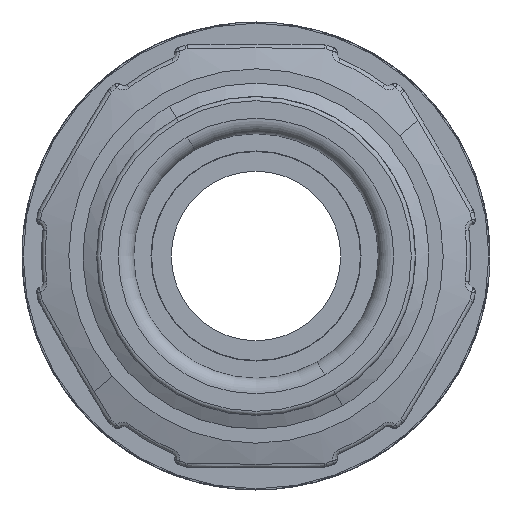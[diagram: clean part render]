
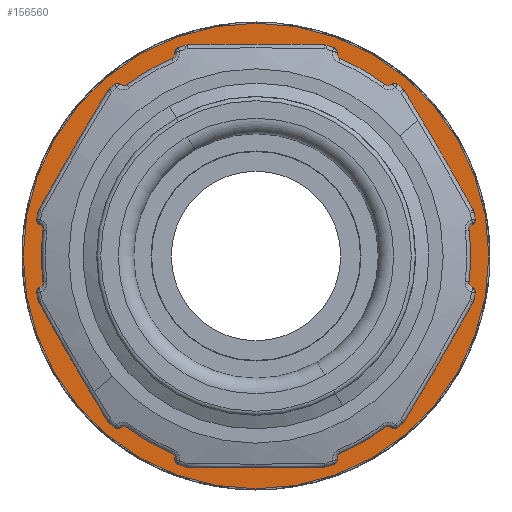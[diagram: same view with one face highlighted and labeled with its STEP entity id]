
A CAD part, left-side view. The second image highlights one B-rep face of the part: STEP entity #156560.
In plain terms, the highlighted planar face has unit normal (-1, 0, 0) as drawn and (0, 0, -1) by its records, which use the part's own axes.
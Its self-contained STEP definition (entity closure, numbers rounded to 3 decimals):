
#156210=CARTESIAN_POINT('',(20.902,67.449,-1.25));
#156220=DIRECTION('',(0.,0.,-1.));
#156230=DIRECTION('',(-0.866,0.5,0.));
#156240=AXIS2_PLACEMENT_3D('',#156210,#156220,#156230);
#156250=PLANE('',#156240);
#156260=CARTESIAN_POINT('',(39.,57.,-1.25));
#156270=DIRECTION('',(0.,0.,1.));
#156280=DIRECTION('',(-0.866,0.5,
0.));
#156290=AXIS2_PLACEMENT_3D('',#156260,#156270,#156280);
#156300=CIRCLE('',#156290,19.295);
#156310=CARTESIAN_POINT('',(22.29,66.647,-1.25));
#156320=VERTEX_POINT('',#156310);
#156330=CARTESIAN_POINT('',(55.71,47.353,-1.25));
#156340=VERTEX_POINT('',#156330);
#156350=EDGE_CURVE('',#156320,#156340,#156300,.T.);
#156360=ORIENTED_EDGE('',*,*,#156350,.T.);
#156370=EDGE_CURVE('',#156340,#156320,#156300,.T.);
#156380=ORIENTED_EDGE('',*,*,#156370,.T.);
#156390=EDGE_LOOP('',(#156380,#156360));
#156400=FACE_BOUND('',#156390,.T.);
#156410=CARTESIAN_POINT('',(39.,57.,-1.25));
#156420=DIRECTION('',(0.,0.,-1.));
#156430=DIRECTION('',(-0.866,0.5,0.));
#156440=AXIS2_PLACEMENT_3D('',#156410,#156420,#156430);
#156450=CIRCLE('',#156440,22.39);
#156460=CARTESIAN_POINT('',(19.61,68.195,-1.25));
#156470=VERTEX_POINT('',#156460);
#156480=CARTESIAN_POINT('',(58.39,45.805,-1.25));
#156490=VERTEX_POINT('',#156480);
#156500=EDGE_CURVE('',#156470,#156490,#156450,.T.);
#156510=ORIENTED_EDGE('',*,*,#156500,.T.);
#156520=EDGE_CURVE('',#156490,#156470,#156450,.T.);
#156530=ORIENTED_EDGE('',*,*,#156520,.T.);
#156540=EDGE_LOOP('',(#156530,#156510));
#156550=FACE_OUTER_BOUND('',#156540,.T.);
#156560=ADVANCED_FACE('',(#156400,#156550),#156250,.T.);
